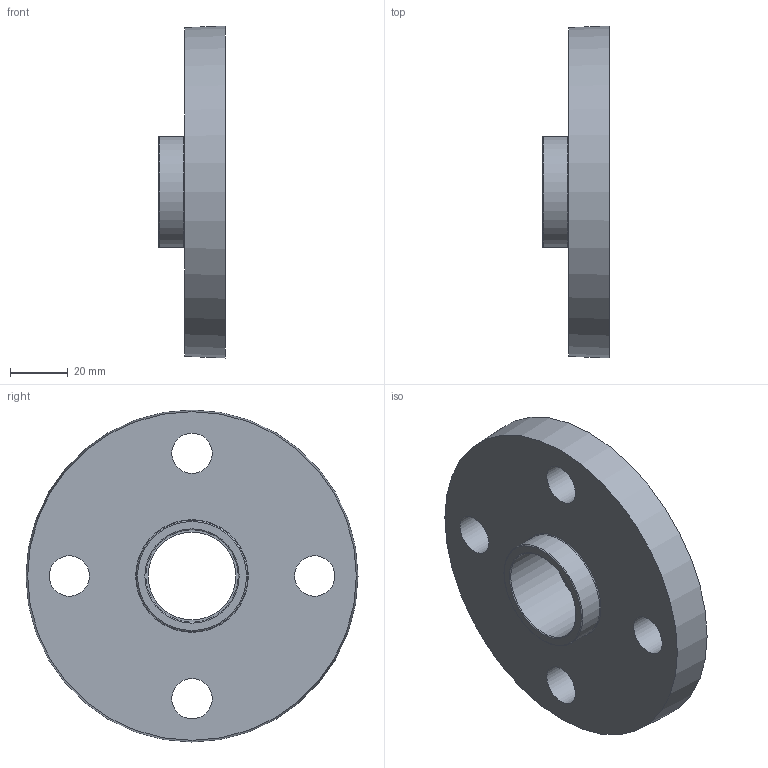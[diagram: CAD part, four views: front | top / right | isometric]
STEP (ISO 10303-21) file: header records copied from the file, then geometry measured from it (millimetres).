
FILE_DESCRIPTION(/* description */ ('PLASSON FIXED FLANGE-CEM PVC 32'),/* implementation_level */ '2;1');
FILE_NAME(/* name */ 'C:\Dropbox\KIMPROJECTS-Inventor\99-16-3568-Processing\PVC Catalog 2017\059200\059100032.ipt.stp',/* time_stamp */ '2017-12-07T16:06:59+02:00',/* author */ ('KIM'),/* organization */ (''),/* preprocessor_version */ 'ST-DEVELOPER v15.6',/* originating_system */ 'Autodesk Inventor 2015',/* authorisation */ '');
FILE_SCHEMA (('AUTOMOTIVE_DESIGN { 1 0 10303 214 3 1 1 }'));
Length unit declared in the file: millimetre
Products named in the file (1): 059100032
Bounding box: 23 x 115 x 115 mm (x, y, z)
Volume: 127302.4 mm3; surface area: 28868.8 mm2
Topology: 1 solids, 1 shells, 28 faces, 50 edges, 32 vertices
Faces by surface type: cylinder 13, plane 10, torus 4, cone 1
Full cylindrical faces by diameter (mm): 14 x4, 30.4 x1, 32 x1, 32.19 x1, 33.34 x1, 34.49 x1, 35.64 x1, 36.79 x1, 37.94 x1, 38.4 x1
Entity records: 648 total; most frequent: DIRECTION 122, CARTESIAN_POINT 93, EDGE_LOOP 64, ORIENTED_EDGE 64, AXIS2_PLACEMENT_3D 61, FACE_BOUND 36, CIRCLE 32, VERTEX_POINT 32
